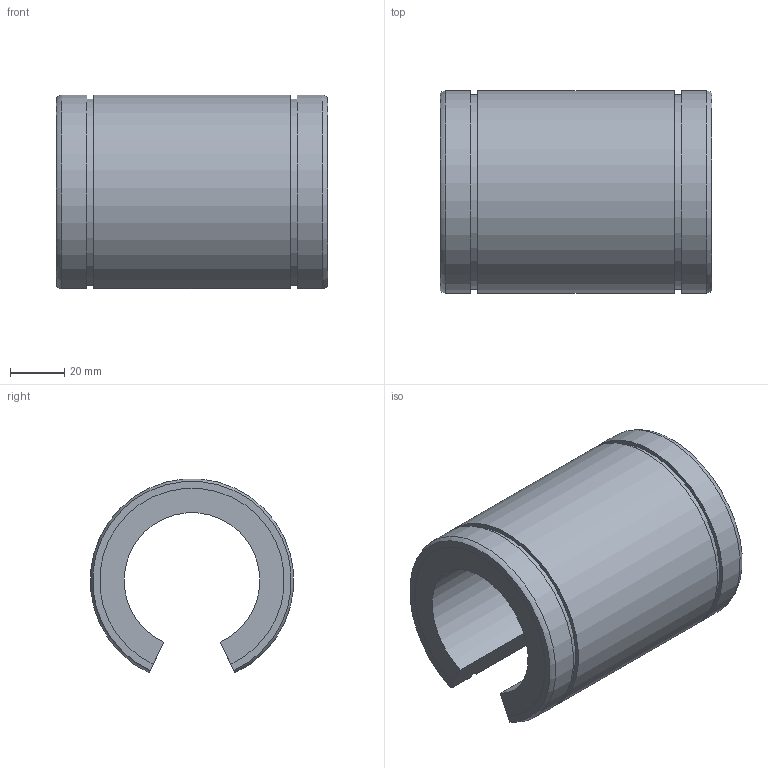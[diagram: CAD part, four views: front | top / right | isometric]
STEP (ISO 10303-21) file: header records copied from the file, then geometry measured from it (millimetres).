
FILE_DESCRIPTION((''),'2;1');
FILE_NAME('D:\製品 (図面)\カタログ用3D\リニアベアリング関連\STEP形式\LE-OP\LE50-OP.stp','2010-06-03T09:10:32',('Tsuchiya'),(''),'Autodesk Inventor 10','Autodesk Inventor 10','');
FILE_SCHEMA(('AUTOMOTIVE_DESIGN { 1 0 10303 214 1 1 1 1 }'));
Length unit declared in the file: millimetre
Products named in the file (1): LE50-OP
Bounding box: 100 x 74.72 x 71.37 mm (x, y, z)
Volume: 209380.5 mm3; surface area: 41422.4 mm2
Topology: 1 solids, 1 shells, 20 faces, 54 edges, 36 vertices
Faces by surface type: plane 10, cylinder 8, torus 2
Entity records: 687 total; most frequent: CARTESIAN_POINT 147, DIRECTION 110, ORIENTED_EDGE 108, EDGE_CURVE 54, AXIS2_PLACEMENT_3D 39, VERTEX_POINT 36, VECTOR 32, LINE 32
